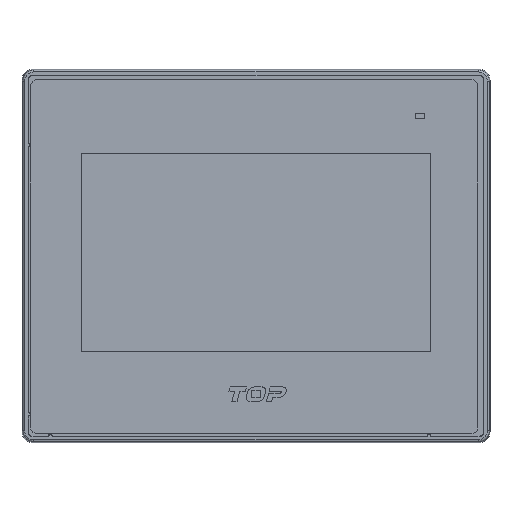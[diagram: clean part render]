
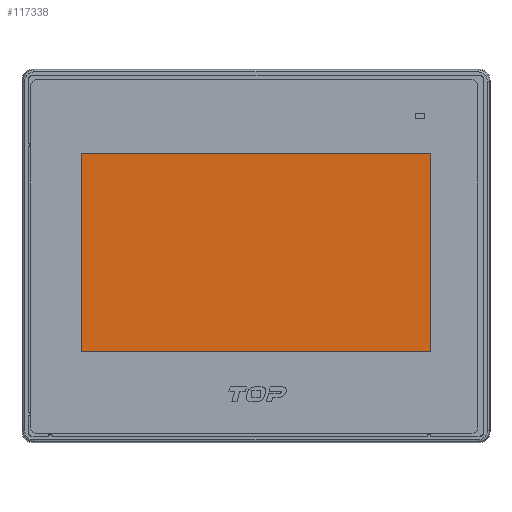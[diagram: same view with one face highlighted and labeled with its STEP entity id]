
A CAD part, top view. The second image highlights one B-rep face of the part: STEP entity #117338.
In plain terms, the highlighted planar face has unit normal (0, 0, 1).
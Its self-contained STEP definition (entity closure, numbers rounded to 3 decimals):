
#41259=DIRECTION('',(0.,-1.,0.));
#41260=VECTOR('',#41259,54.5);
#41261=CARTESIAN_POINT('',(-48.,28.25,-0.27));
#41262=LINE('',#41261,#41260);
#41263=DIRECTION('',(-1.,0.,0.));
#41264=VECTOR('',#41263,96.);
#41265=CARTESIAN_POINT('',(48.,28.25,-0.27));
#41266=LINE('',#41265,#41264);
#41267=DIRECTION('',(0.,1.,0.));
#41268=VECTOR('',#41267,54.5);
#41269=CARTESIAN_POINT('',(48.,-26.25,-0.27));
#41270=LINE('',#41269,#41268);
#41271=DIRECTION('',(1.,0.,0.));
#41272=VECTOR('',#41271,96.);
#41273=CARTESIAN_POINT('',(-48.,-26.25,-0.27));
#41274=LINE('',#41273,#41272);
#56059=CARTESIAN_POINT('',(-48.,28.25,-0.27));
#56060=CARTESIAN_POINT('',(-48.,-26.25,-0.27));
#56061=VERTEX_POINT('',#56059);
#56062=VERTEX_POINT('',#56060);
#56063=CARTESIAN_POINT('',(48.,-26.25,-0.27));
#56064=VERTEX_POINT('',#56063);
#56065=CARTESIAN_POINT('',(48.,28.25,-0.27));
#56066=VERTEX_POINT('',#56065);
#117327=CARTESIAN_POINT('',(0.,0.,-0.27));
#117328=DIRECTION('',(0.,0.,1.));
#117329=DIRECTION('',(1.,0.,0.));
#117330=AXIS2_PLACEMENT_3D('',#117327,#117328,#117329);
#117331=PLANE('',#117330);
#117332=ORIENTED_EDGE('',*,*,#117279,.F.);
#117333=ORIENTED_EDGE('',*,*,#117294,.F.);
#117334=ORIENTED_EDGE('',*,*,#117308,.F.);
#117335=ORIENTED_EDGE('',*,*,#117321,.F.);
#117336=EDGE_LOOP('',(#117332,#117333,#117334,#117335));
#117337=FACE_OUTER_BOUND('',#117336,.F.);
#117338=ADVANCED_FACE('',(#117337),#117331,.T.);
#117279=EDGE_CURVE('',#56061,#56062,#41262,.T.);
#117294=EDGE_CURVE('',#56066,#56061,#41266,.T.);
#117308=EDGE_CURVE('',#56064,#56066,#41270,.T.);
#117321=EDGE_CURVE('',#56062,#56064,#41274,.T.);
